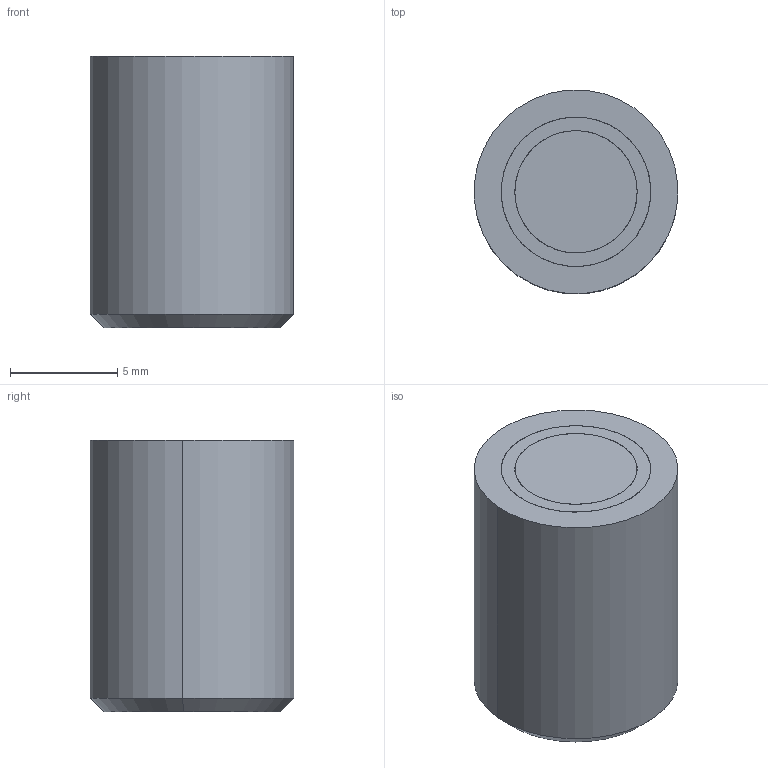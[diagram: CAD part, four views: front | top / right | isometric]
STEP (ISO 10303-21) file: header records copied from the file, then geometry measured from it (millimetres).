
FILE_DESCRIPTION (( 'STEP AP203' ), '1' );
FILE_NAME ('A375.STEP', '2018-08-17T18:39:17', ( '' ), ( '' ), 'SwSTEP 2.0', 'SolidWorks 2015', '' );
FILE_SCHEMA (( 'CONFIG_CONTROL_DESIGN' ));
Length unit declared in the file: inch
Products named in the file (1): A375
Bounding box: 9.49 x 9.49 x 12.7 mm (x, y, z)
Volume: 873.6 mm3; surface area: 1412.2 mm2
Topology: 3 solids, 3 shells, 25 faces, 50 edges, 31 vertices
Faces by surface type: cylinder 12, plane 7, cone 6
Entity records: 731 total; most frequent: DIRECTION 130, CARTESIAN_POINT 105, ORIENTED_EDGE 96, AXIS2_PLACEMENT_3D 56, EDGE_CURVE 48, VERTEX_POINT 31, EDGE_LOOP 31, CIRCLE 30
